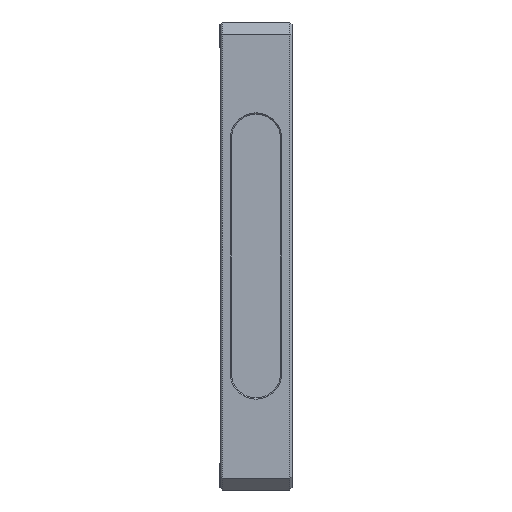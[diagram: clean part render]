
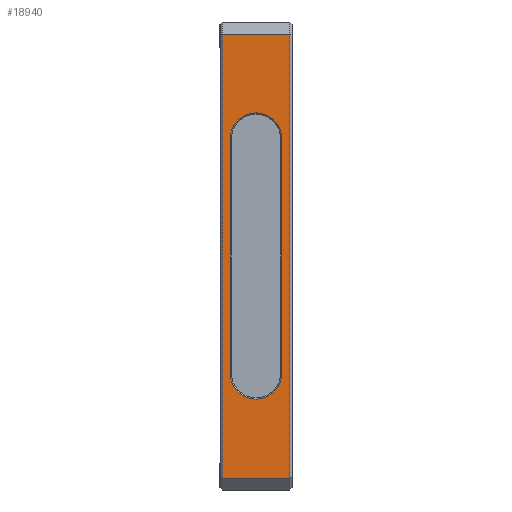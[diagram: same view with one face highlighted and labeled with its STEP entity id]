
A CAD part, left-side view. The second image highlights one B-rep face of the part: STEP entity #18940.
In plain terms, the highlighted planar face has unit normal (-1, 0, 0).
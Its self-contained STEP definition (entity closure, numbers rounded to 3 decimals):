
#2778=DIRECTION('',(0.,1.,0.));
#2779=VECTOR('',#2778,28.);
#2780=CARTESIAN_POINT('',(-97.5,1.,92.5));
#2781=LINE('',#2780,#2779);
#2782=DIRECTION('',(0.,0.,1.));
#2783=VECTOR('',#2782,185.);
#2784=CARTESIAN_POINT('',(-97.5,29.,-92.5));
#2785=LINE('',#2784,#2783);
#2786=DIRECTION('',(0.,0.,-1.));
#2787=VECTOR('',#2786,185.);
#2788=CARTESIAN_POINT('',(-97.5,1.,92.5));
#2789=LINE('',#2788,#2787);
#2790=DIRECTION('',(0.,1.,0.));
#2791=VECTOR('',#2790,28.);
#2792=CARTESIAN_POINT('',(-97.5,1.,-92.5));
#2793=LINE('',#2792,#2791);
#2794=CARTESIAN_POINT('',(-97.5,15.,-48.877));
#2795=DIRECTION('',(-1.,0.,0.));
#2796=DIRECTION('',(0.,1.,0.));
#2797=AXIS2_PLACEMENT_3D('',#2794,#2795,#2796);
#2799=CARTESIAN_POINT('',(-97.5,15.,-48.877));
#2800=DIRECTION('',(-1.,0.,0.));
#2801=DIRECTION('',(0.,0.,-1.));
#2802=AXIS2_PLACEMENT_3D('',#2799,#2800,#2801);
#2804=CARTESIAN_POINT('',(-97.5,15.,48.877));
#2805=DIRECTION('',(-1.,0.,0.));
#2806=DIRECTION('',(0.,-1.,0.));
#2807=AXIS2_PLACEMENT_3D('',#2804,#2805,#2806);
#2809=CARTESIAN_POINT('',(-97.5,15.,48.877));
#2810=DIRECTION('',(-1.,0.,0.));
#2811=DIRECTION('',(0.,0.,1.));
#2812=AXIS2_PLACEMENT_3D('',#2809,#2810,#2811);
#2814=DIRECTION('',(0.,0.,1.));
#2815=VECTOR('',#2814,97.754);
#2816=CARTESIAN_POINT('',(-97.5,25.749,
-48.877));
#2817=LINE('',#2816,#2815);
#2853=DIRECTION('',(0.,0.,-1.));
#2854=VECTOR('',#2853,97.754);
#2855=CARTESIAN_POINT('',(-97.5,4.251,48.877));
#2856=LINE('',#2855,#2854);
#14953=CARTESIAN_POINT('',(-97.5,1.,92.5));
#14954=VERTEX_POINT('',#14953);
#14955=CARTESIAN_POINT('',(-97.5,1.,-92.5));
#14956=VERTEX_POINT('',#14955);
#14959=CARTESIAN_POINT('',(-97.5,29.,-92.5));
#14961=VERTEX_POINT('',#14959);
#14963=CARTESIAN_POINT('',(-97.5,29.,92.5));
#14964=VERTEX_POINT('',#14963);
#15985=CARTESIAN_POINT('',(-97.5,25.749,
48.877));
#15986=VERTEX_POINT('',#15985);
#15987=CARTESIAN_POINT('',(-97.5,4.251,48.877));
#15988=CARTESIAN_POINT('',(-97.5,15.,59.626));
#15989=VERTEX_POINT('',#15987);
#15990=VERTEX_POINT('',#15988);
#15991=CARTESIAN_POINT('',(-97.5,25.749,
-48.877));
#15992=VERTEX_POINT('',#15991);
#15993=CARTESIAN_POINT('',(-97.5,4.251,
-48.877));
#15994=VERTEX_POINT('',#15993);
#15995=CARTESIAN_POINT('',(-97.5,15.,-59.626));
#15996=VERTEX_POINT('',#15995);
#18915=CARTESIAN_POINT('',(-97.5,30.,87.5));
#18916=DIRECTION('',(1.,0.,0.));
#18917=DIRECTION('',(0.,0.,-1.));
#18918=AXIS2_PLACEMENT_3D('',#18915,#18916,#18917);
#18919=PLANE('',#18918);
#18920=ORIENTED_EDGE('',*,*,#18700,.T.);
#18921=ORIENTED_EDGE('',*,*,#18910,.F.);
#18922=ORIENTED_EDGE('',*,*,#18643,.T.);
#18923=ORIENTED_EDGE('',*,*,#18670,.T.);
#18924=EDGE_LOOP('',(#18920,#18921,#18922,#18923));
#18925=FACE_OUTER_BOUND('',#18924,.F.);
#18927=ORIENTED_EDGE('',*,*,#18926,.F.);
#18929=ORIENTED_EDGE('',*,*,#18928,.T.);
#18931=ORIENTED_EDGE('',*,*,#18930,.T.);
#18933=ORIENTED_EDGE('',*,*,#18932,.F.);
#18935=ORIENTED_EDGE('',*,*,#18934,.T.);
#18937=ORIENTED_EDGE('',*,*,#18936,.T.);
#18938=EDGE_LOOP('',(#18927,#18929,#18931,#18933,#18935,#18937));
#18939=FACE_BOUND('',#18938,.F.);
#18940=ADVANCED_FACE('',(#18925,#18939),#18919,.F.);
#2798=CIRCLE('',#2797,10.749);
#2803=CIRCLE('',#2802,10.749);
#2808=CIRCLE('',#2807,10.749);
#2813=CIRCLE('',#2812,10.749);
#18643=EDGE_CURVE('',#14954,#14956,#2789,.T.);
#18670=EDGE_CURVE('',#14956,#14961,#2793,.T.);
#18700=EDGE_CURVE('',#14961,#14964,#2785,.T.);
#18910=EDGE_CURVE('',#14954,#14964,#2781,.T.);
#18926=EDGE_CURVE('',#15992,#15986,#2817,.T.);
#18928=EDGE_CURVE('',#15992,#15996,#2798,.T.);
#18930=EDGE_CURVE('',#15996,#15994,#2803,.T.);
#18932=EDGE_CURVE('',#15989,#15994,#2856,.T.);
#18934=EDGE_CURVE('',#15989,#15990,#2808,.T.);
#18936=EDGE_CURVE('',#15990,#15986,#2813,.T.);
